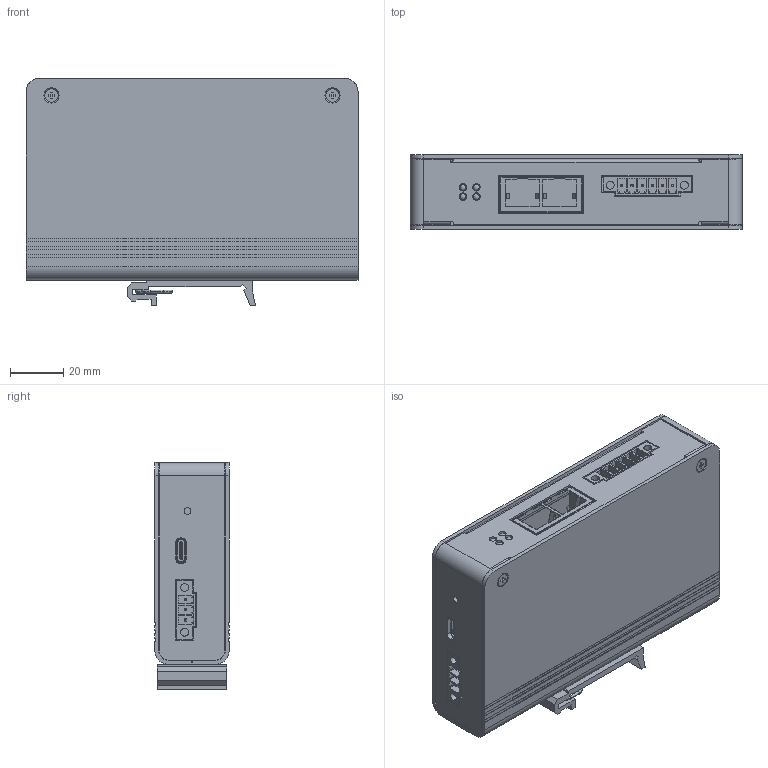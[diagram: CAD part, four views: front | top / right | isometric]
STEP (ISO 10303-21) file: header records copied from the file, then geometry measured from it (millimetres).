
FILE_DESCRIPTION((''),'2;1');
FILE_NAME('00-PXB______SW0001','2025-07-30T15:03:51',('hepeizong'),(''),'CREO PARAMETRIC BY PTC INC, 2021404','CREO PARAMETRIC BY PTC INC, 2021404','');
FILE_SCHEMA(('CONFIG_CONTROL_DESIGN','SHAPE_APPEARANCE_LAYERS_GROUPS'));
Products named in the file (1): 00-PXB______SW0001
Bounding box: 125 x 28 x 85.5 mm (x, y, z)
Volume: 84372.4 mm3; surface area: 104594.5 mm2
Topology: 4 solids, 4 shells, 2043 faces, 5592 edges, 3594 vertices
Faces by surface type: plane 1284, cylinder 579, cone 98, torus 42, bspline 22, sphere 18
Entity records: 69593 total; most frequent: CARTESIAN_POINT 14992, ORIENTED_EDGE 11160, DIRECTION 10270, EDGE_CURVE 5580, VECTOR 4088, LINE 4088, VERTEX_POINT 3594, AXIS2_PLACEMENT_3D 3091
